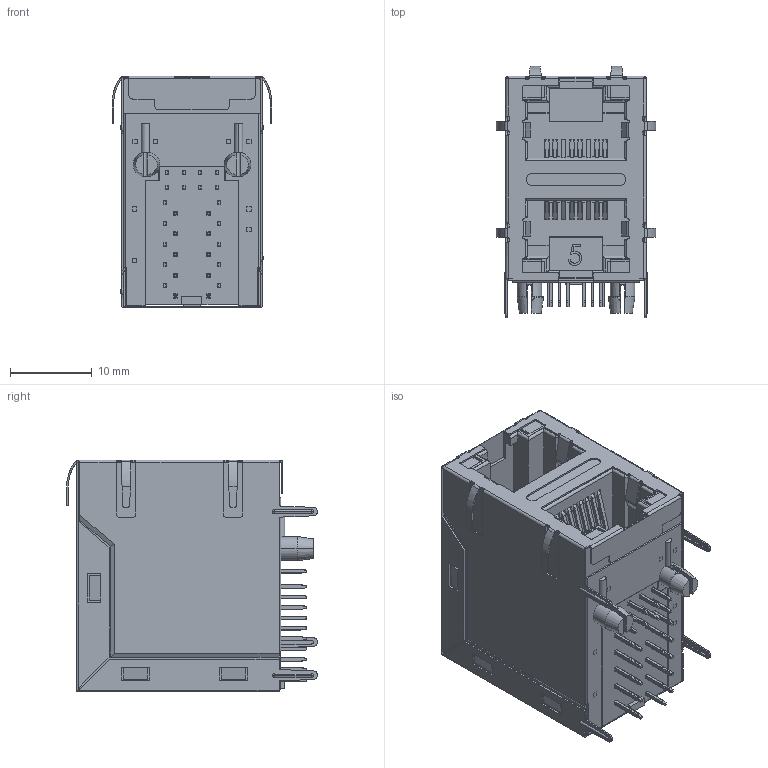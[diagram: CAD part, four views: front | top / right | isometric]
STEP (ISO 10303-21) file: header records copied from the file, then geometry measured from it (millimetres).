
FILE_DESCRIPTION (( 'STEP AP203' ), '1' );
FILE_NAME ('2X1 28mm 香菇脚带横排灯带弹无加强筋.STEP', '2024-08-03T02:28:07', ( '' ), ( '' ), 'SwSTEP 2.0', 'SolidWorks 2023', '' );
FILE_SCHEMA (( 'CONFIG_CONTROL_DESIGN' ));
Length unit declared in the file: millimetre
Products named in the file (1): 2X1 28mm 香菇脚带横排灯带弹无加强筋
Bounding box: 19.6 x 30.75 x 28.4 mm (x, y, z)
Volume: 7139.6 mm3; surface area: 20965.7 mm2
Topology: 97 solids, 97 shells, 6440 faces, 17880 edges, 11766 vertices
Faces by surface type: plane 4432, cylinder 1518, bspline 412, torus 44, sphere 28, cone 6
Entity records: 227298 total; most frequent: CARTESIAN_POINT 62070, ORIENTED_EDGE 35684, DIRECTION 31952, EDGE_CURVE 17842, VECTOR 13806, LINE 13806, VERTEX_POINT 11758, AXIS2_PLACEMENT_3D 9073
